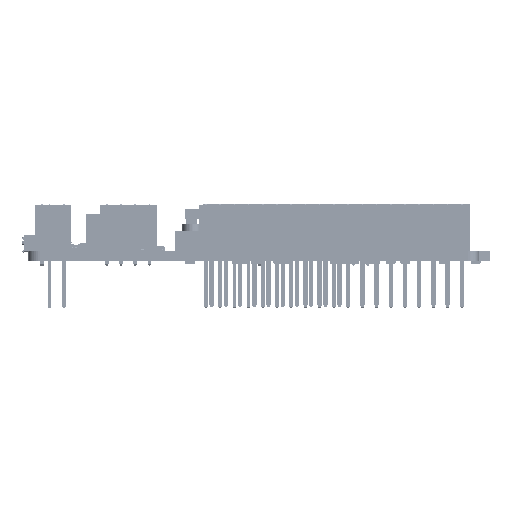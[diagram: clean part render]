
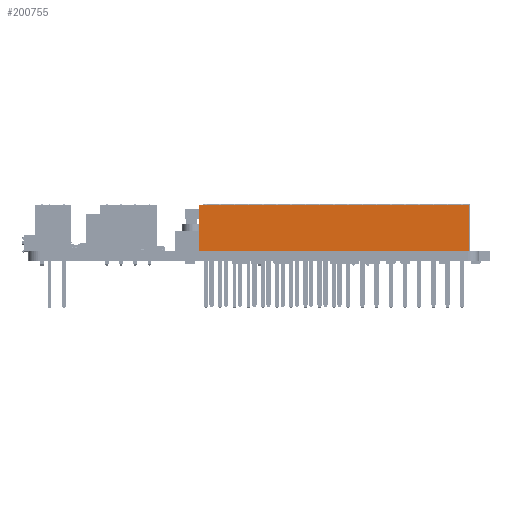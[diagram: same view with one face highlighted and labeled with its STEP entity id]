
A CAD part, left-side view. The second image highlights one B-rep face of the part: STEP entity #200755.
In plain terms, the highlighted planar face has unit normal (-1, 0, 0).
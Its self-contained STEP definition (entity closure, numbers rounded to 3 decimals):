
#200657 = EDGE_CURVE('',#200658,#200660,#200662,.T.);
#200658 = VERTEX_POINT('',#200659);
#200659 = CARTESIAN_POINT('',(-2.545,24.132,0.));
#200660 = VERTEX_POINT('',#200661);
#200661 = CARTESIAN_POINT('',(-2.545,24.132,8.38));
#200662 = LINE('',#200663,#200664);
#200663 = CARTESIAN_POINT('',(-2.545,24.132,0.));
#200664 = VECTOR('',#200665,1.);
#200665 = DIRECTION('',(0.,0.,1.));
#200730 = VERTEX_POINT('',#200731);
#200731 = CARTESIAN_POINT('',(-2.545,-24.132,8.38));
#200737 = EDGE_CURVE('',#200738,#200730,#200740,.T.);
#200738 = VERTEX_POINT('',#200739);
#200739 = CARTESIAN_POINT('',(-2.545,-24.132,0.));
#200740 = LINE('',#200741,#200742);
#200741 = CARTESIAN_POINT('',(-2.545,-24.132,0.));
#200742 = VECTOR('',#200743,1.);
#200743 = DIRECTION('',(0.,0.,1.));
#200755 = ADVANCED_FACE('',(#200756),#200772,.T.);
#200756 = FACE_BOUND('',#200757,.T.);
#200757 = EDGE_LOOP('',(#200758,#200759,#200765,#200766));
#200758 = ORIENTED_EDGE('',*,*,#200737,.T.);
#200759 = ORIENTED_EDGE('',*,*,#200760,.T.);
#200760 = EDGE_CURVE('',#200730,#200660,#200761,.T.);
#200761 = LINE('',#200762,#200763);
#200762 = CARTESIAN_POINT('',(-2.545,-24.132,8.38));
#200763 = VECTOR('',#200764,1.);
#200764 = DIRECTION('',(0.,1.,0.));
#200765 = ORIENTED_EDGE('',*,*,#200657,.F.);
#200766 = ORIENTED_EDGE('',*,*,#200767,.F.);
#200767 = EDGE_CURVE('',#200738,#200658,#200768,.T.);
#200768 = LINE('',#200769,#200770);
#200769 = CARTESIAN_POINT('',(-2.545,-24.132,0.));
#200770 = VECTOR('',#200771,1.);
#200771 = DIRECTION('',(0.,1.,0.));
#200772 = PLANE('',#200773);
#200773 = AXIS2_PLACEMENT_3D('',#200774,#200775,#200776);
#200774 = CARTESIAN_POINT('',(-2.545,-24.132,0.));
#200775 = DIRECTION('',(-1.,0.,0.));
#200776 = DIRECTION('',(0.,1.,0.));
